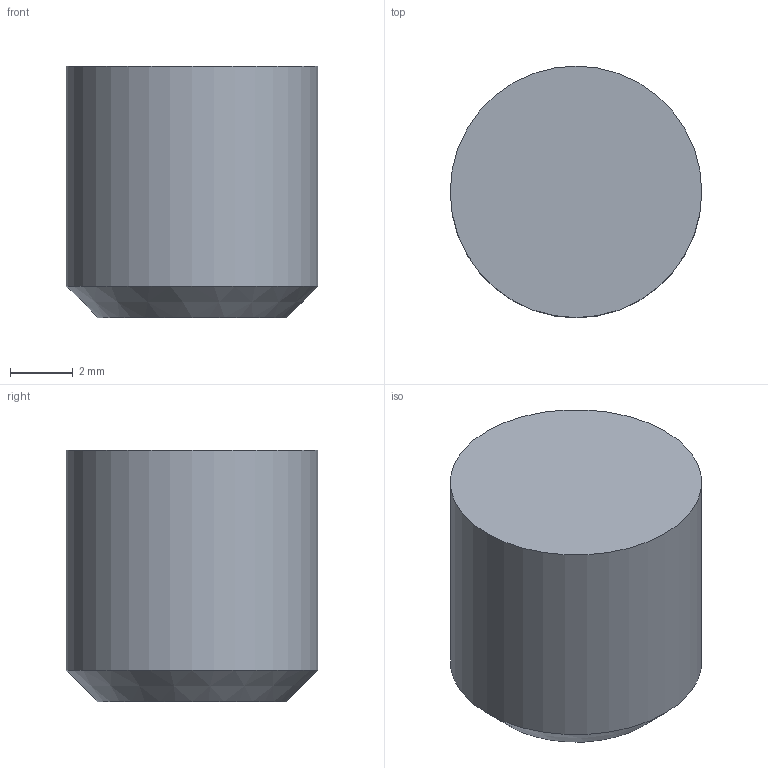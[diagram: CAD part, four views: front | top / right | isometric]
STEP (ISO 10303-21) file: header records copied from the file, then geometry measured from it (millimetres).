
FILE_DESCRIPTION(/* description */ ('Plate Centered Inlay'),/* implementation_level */ '2;1');
FILE_NAME(/* name */ 'Z:\Werkstatt Server\Projekte\Atlas\Entwicklung u. Konstruktion\Konstruktion\CAD Daten\ITkPixToolV2.0\Baremodule Jig\ITPTv2.01.00.13.stp',/* time_stamp */ '2021-08-06T14:55:09+02:00',/* author */ ('Tim Kanngießer'),/* organization */ (''),/* preprocessor_version */ 'ST-DEVELOPER v18.1',/* originating_system */ 'Autodesk Inventor 2022',/* authorisation */ '');
FILE_SCHEMA (('AUTOMOTIVE_DESIGN { 1 0 10303 214 3 1 1 }'));
Length unit declared in the file: millimetre
Products named in the file (1): ITPTv2.01.00.13
Bounding box: 8 x 8 x 8 mm (x, y, z)
Volume: 360.9 mm3; surface area: 332.7 mm2
Topology: 1 solids, 1 shells, 6 faces, 11 edges, 7 vertices
Faces by surface type: cone 2, cylinder 2, plane 2
Full cylindrical faces by diameter (mm): 2.459 x1, 8 x1
Entity records: 189 total; most frequent: DIRECTION 30, CARTESIAN_POINT 24, ORIENTED_EDGE 20, AXIS2_PLACEMENT_3D 13, EDGE_CURVE 10, EDGE_LOOP 7, VERTEX_POINT 7, FACE_OUTER_BOUND 6
